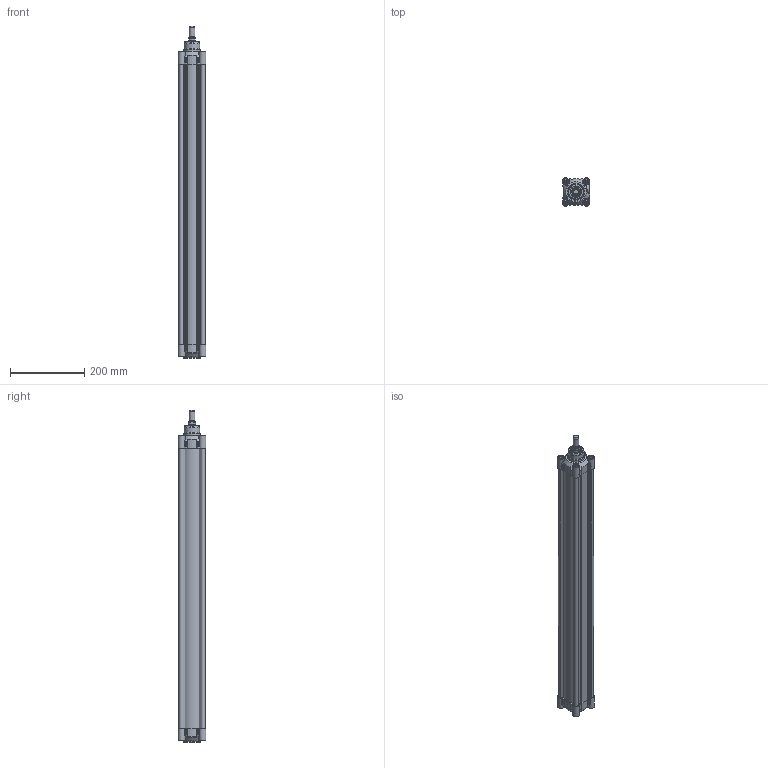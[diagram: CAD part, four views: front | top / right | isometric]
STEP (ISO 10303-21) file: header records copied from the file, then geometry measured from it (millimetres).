
FILE_DESCRIPTION(/* description */ ('CILINDRO D.E. MAGNETICO AMMORTIZZATO ISO 15552'),/* implementation_level */ '2;1');
FILE_NAME(/* name */ 'T:\Archivio Inventor\- 00 NUOVI STP PER SITO CON STELO CHE SI MUOVE\SERIE H - U\SERIE HDM\HDM063 - TUBO NUOVO\HDM063.700.GS.M.stp',/* time_stamp */ '2018-07-30T14:42:11+02:00',/* author */ ('carlo.corazza'),/* organization */ (''),/* preprocessor_version */ 'ST-DEVELOPER v16.5',/* originating_system */ 'Autodesk Inventor 2017',/* authorisation */ '');
FILE_SCHEMA (('AUTOMOTIVE_DESIGN { 1 0 10303 214 3 1 1 }'));
Length unit declared in the file: millimetre
Products named in the file (5): HDM063.700.GS.M; TP; TA; STELO-700; CORPO-700
Assembly tree (4 placements, depth 2):
  HDM063.700.GS.M
    TP
    TA
    STELO-700
    CORPO-700
Bounding box: 75 x 75 x 894 mm (x, y, z)
Volume: 1215963.3 mm3; surface area: 662922.8 mm2
Topology: 4 solids, 27 shells, 1241 faces, 2936 edges, 1818 vertices
Faces by surface type: plane 368, cylinder 297, bspline 288, torus 108, cone 106, sphere 74
Full cylindrical faces by diameter (mm): 3 x2, 3.4 x2, 4.8 x2, 5.25 x2, 6.647 x8, 8 x8, 8.3 x12, 9.8 x4, 9.9 x2, 10 x6, 12 x3, 13 x8, 13.3 x8, 13.5 x1, 14.95 x2, 16 x1, 19.5 x1, 20 x1, 20.8 x1, 20.847 x1, 24 x1, 26 x2, 30 x3, 42 x1, 45 x2, 63 x1
Entity records: 40768 total; most frequent: CARTESIAN_POINT 13071, ORIENTED_EDGE 5326, DIRECTION 5100, EDGE_CURVE 2663, AXIS2_PLACEMENT_3D 2037, VERTEX_POINT 1763, EDGE_LOOP 1576, STYLED_ITEM 1245
